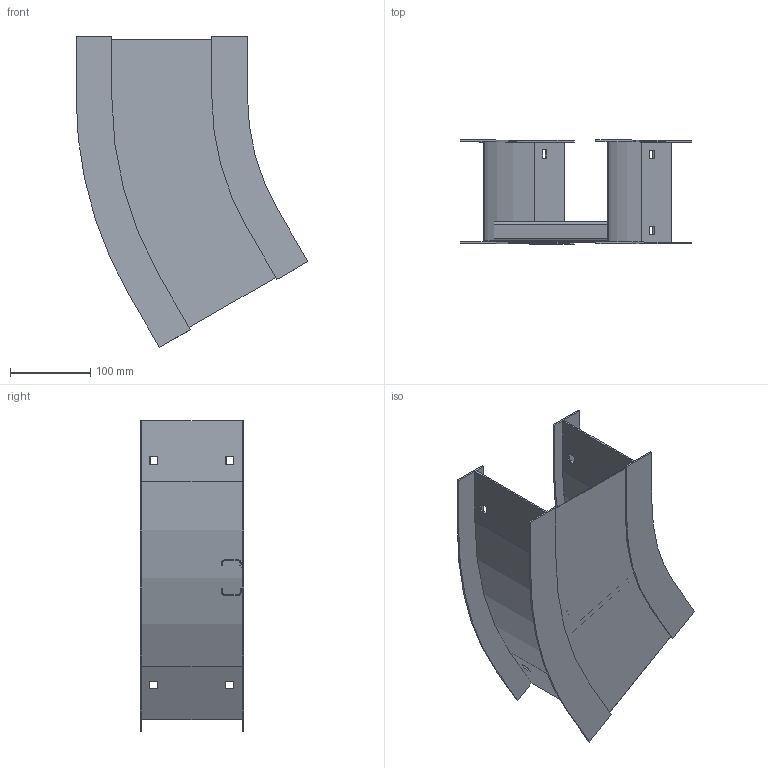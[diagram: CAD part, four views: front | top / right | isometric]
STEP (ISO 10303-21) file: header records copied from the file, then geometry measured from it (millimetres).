
FILE_DESCRIPTION((''),'2;1');
FILE_NAME('AHF506SHB3012_ASM','2010-01-28T',('erouzier'),(''),'PRO/ENGINEER BY PARAMETRIC TECHNOLOGY CORPORATION, 2008510','PRO/ENGINEER BY PARAMETRIC TECHNOLOGY CORPORATION, 2008510','');
FILE_SCHEMA(('CONFIG_CONTROL_DESIGN'));
Length unit declared in the file: inch
Products named in the file (5): CDS001811-5-30-12-I; CDS001811-5-30-18-O; CDS002159L6; ED04588-6-12-30; AHF506SHB3012_ASM
Assembly tree (4 placements, depth 2):
  AHF506SHB3012_ASM
    CDS001811-5-30-12-I
    CDS001811-5-30-18-O
    CDS002159L6
    ED04588-6-12-30
Bounding box: 288.72 x 129.03 x 387.24 mm (x, y, z)
Volume: 386546.3 mm3; surface area: 446396.7 mm2
Topology: 4 solids, 4 shells, 124 faces, 348 edges, 232 vertices
Faces by surface type: plane 99, cylinder 25
Entity records: 4133 total; most frequent: CARTESIAN_POINT 713, ORIENTED_EDGE 696, DIRECTION 664, EDGE_CURVE 348, VECTOR 298, LINE 298, VERTEX_POINT 232, AXIS2_PLACEMENT_3D 183
